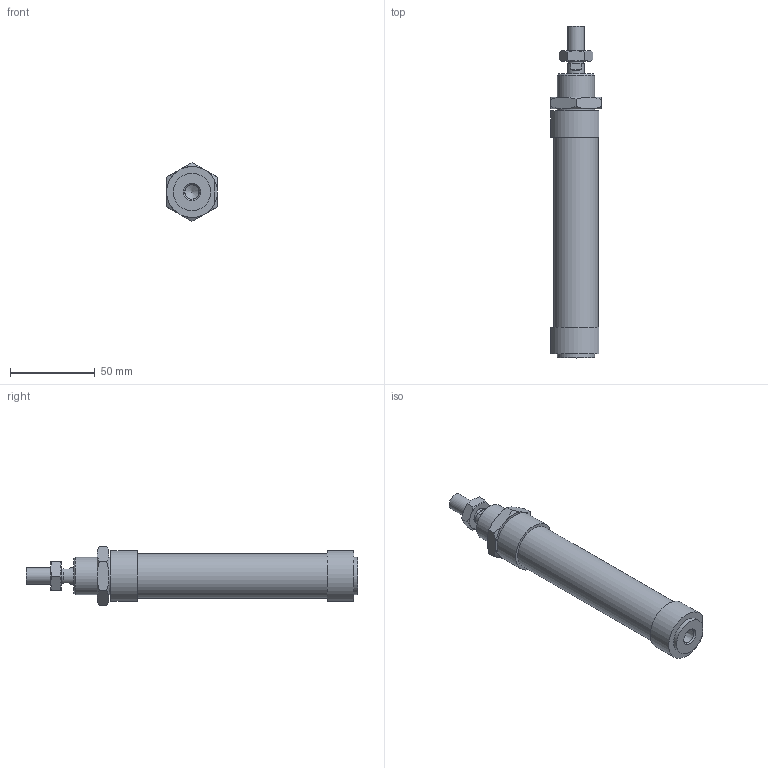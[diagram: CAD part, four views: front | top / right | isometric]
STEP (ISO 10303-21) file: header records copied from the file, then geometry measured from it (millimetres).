
FILE_DESCRIPTION((''),'2;1');
FILE_NAME('I:\Area Tecnica\Disegni\VARIE-3D\Componenti\1280\1281_##_####_#\1281_25_0075.iam.stp','2009-06-04T09:40:15',(''),(''),'Autodesk Inventor 2010','Autodesk Inventor 2010','');
FILE_SCHEMA(('AUTOMOTIVE_DESIGN { 1 0 10303 214 1 1 1 1 }'));
Length unit declared in the file: millimetre
Products named in the file (5): 1281_25_0075; C1281_25_75; S1280_25_75; 1200_25_05; 1200_25_06
Assembly tree (4 placements, depth 2):
  1281_25_0075
    C1281_25_75
    S1280_25_75
    1200_25_05
    1200_25_06
Bounding box: 30 x 195.5 x 34.64 mm (x, y, z)
Volume: 97103.2 mm3; surface area: 27105.7 mm2
Topology: 4 solids, 4 shells, 86 faces, 185 edges, 112 vertices
Faces by surface type: plane 36, cone 26, bspline 15, cylinder 9
Full cylindrical faces by diameter (mm): 8.8 x1, 10 x3, 22 x2, 26.5 x1
Entity records: 2529 total; most frequent: CARTESIAN_POINT 690, DIRECTION 332, ORIENTED_EDGE 310, EDGE_CURVE 155, AXIS2_PLACEMENT_3D 148, EDGE_LOOP 120, VERTEX_POINT 103, STYLED_ITEM 90
